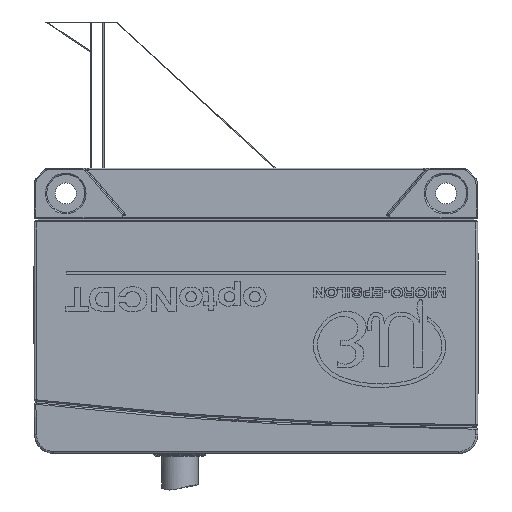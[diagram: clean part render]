
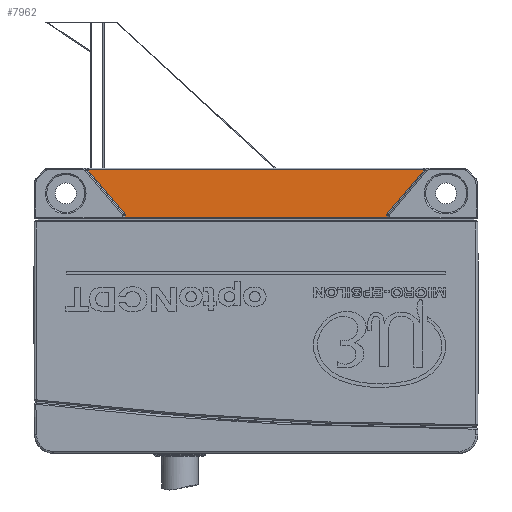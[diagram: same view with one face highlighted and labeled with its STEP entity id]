
A CAD part, front view. The second image highlights one B-rep face of the part: STEP entity #7962.
In plain terms, the highlighted planar face has unit normal (0, -1, 0.018).
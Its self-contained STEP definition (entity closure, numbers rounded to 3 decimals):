
#4825 = CARTESIAN_POINT ( 'NONE',  ( -20.8, -15.51, 0.197 ) ) ;
#6049 = CARTESIAN_POINT ( 'NONE',  ( 20.648, -15.502, 0.654 ) ) ;
#7113 = CARTESIAN_POINT ( 'NONE',  ( -20.645, -15.505, 0.492 ) ) ;
#7962 = ADVANCED_FACE ( 'NONE', ( #18162 ), #85769, .T. ) ;
#8761 = EDGE_CURVE ( 'NONE', #54747, #72071, #13134, .T. ) ;
#9653 = CARTESIAN_POINT ( 'NONE',  ( -20.64, -15.51, 0.197 ) ) ;
#13045 = CARTESIAN_POINT ( 'NONE',  ( -20.809, -15.497, 0.929 ) ) ;
#13134 = LINE ( 'NONE', #4825, #42051 ) ;
#16255 = ORIENTED_EDGE ( 'NONE', *, *, #8761, .T. ) ;
#16957 = ORIENTED_EDGE ( 'NONE', *, *, #21029, .T. ) ;
#18162 = FACE_OUTER_BOUND ( 'NONE', #35414, .T. ) ;
#19144 = LINE ( 'NONE', #45706, #51756 ) ;
#19604 = VERTEX_POINT ( 'NONE', #13045 ) ;
#20830 = CARTESIAN_POINT ( 'NONE',  ( 26.495, -15.379, 7.705 ) ) ;
#21029 = EDGE_CURVE ( 'NONE', #67152, #57516, #24930, .T. ) ;
#23081 = ORIENTED_EDGE ( 'NONE', *, *, #103354, .T. ) ;
#23494 = CARTESIAN_POINT ( 'NONE',  ( -26.495, -15.379, 7.705 ) ) ;
#24930 = LINE ( 'NONE', #98651, #51859 ) ;
#26429 = EDGE_CURVE ( 'NONE', #19604, #78280, #32321, .T. ) ;
#27394 = VECTOR ( 'NONE', #60824, 1000. ) ;
#32321 =( BOUNDED_CURVE ( )  B_SPLINE_CURVE ( 3, ( #73702, #41471, #109087, #7113 ),
 .UNSPECIFIED., .F., .F. ) 
 B_SPLINE_CURVE_WITH_KNOTS ( ( 4, 4 ),
 ( 0.873, 1.553 ),
 .UNSPECIFIED. ) 
 CURVE ( )  GEOMETRIC_REPRESENTATION_ITEM ( )  RATIONAL_B_SPLINE_CURVE ( ( 1., 0.962, 0.962, 1. ) ) 
 REPRESENTATION_ITEM ( '' )  );
#32639 =( BOUNDED_CURVE ( )  B_SPLINE_CURVE ( 3, ( #99695, #6049, #64262, #74208 ),
 .UNSPECIFIED., .F., .F. ) 
 B_SPLINE_CURVE_WITH_KNOTS ( ( 4, 4 ),
 ( 4.73, 5.411 ),
 .UNSPECIFIED. ) 
 CURVE ( )  GEOMETRIC_REPRESENTATION_ITEM ( )  RATIONAL_B_SPLINE_CURVE ( ( 1., 0.962, 0.962, 1. ) ) 
 REPRESENTATION_ITEM ( '' )  );
#33547 = CARTESIAN_POINT ( 'NONE',  ( -20.645, -15.505, 0.492 ) ) ;
#35414 = EDGE_LOOP ( 'NONE', ( #78395, #16255, #23081, #89468, #77420, #16957, #98316, #95738 ) ) ;
#36894 = DIRECTION ( 'NONE',  ( 0.017, 0.017, 1. ) ) ;
#39922 = VERTEX_POINT ( 'NONE', #85533 ) ;
#41471 = CARTESIAN_POINT ( 'NONE',  ( -20.705, -15.499, 0.805 ) ) ;
#42051 = VECTOR ( 'NONE', #105097, 1000. ) ;
#43978 = AXIS2_PLACEMENT_3D ( 'NONE', #94627, #93510, #68083 ) ;
#45706 = CARTESIAN_POINT ( 'NONE',  ( 2.128, -15.886, -21.333 ) ) ;
#46755 = DIRECTION ( 'NONE',  ( 0.643, 0.013, 0.766 ) ) ;
#51756 = VECTOR ( 'NONE', #46755, 1000. ) ;
#51859 = VECTOR ( 'NONE', #91954, 1000. ) ;
#53808 = VECTOR ( 'NONE', #109218, 1000. ) ;
#54093 = CARTESIAN_POINT ( 'NONE',  ( 20.587, -15.563, -2.822 ) ) ;
#54747 = VERTEX_POINT ( 'NONE', #9653 ) ;
#57516 = VERTEX_POINT ( 'NONE', #23494 ) ;
#57756 = VERTEX_POINT ( 'NONE', #100398 ) ;
#59364 = LINE ( 'NONE', #93165, #53808 ) ;
#60824 = DIRECTION ( 'NONE',  ( 0.017, -0.017, -1. ) ) ;
#64262 = CARTESIAN_POINT ( 'NONE',  ( 20.705, -15.499, 0.805 ) ) ;
#67152 = VERTEX_POINT ( 'NONE', #20830 ) ;
#68083 = DIRECTION ( 'NONE',  ( 0., 0.017, 1. ) ) ;
#68391 = EDGE_CURVE ( 'NONE', #78280, #54747, #102886, .T. ) ;
#69190 = CARTESIAN_POINT ( 'NONE',  ( 20.64, -15.51, 0.197 ) ) ;
#69686 = LINE ( 'NONE', #54093, #86312 ) ;
#72071 = VERTEX_POINT ( 'NONE', #69190 ) ;
#72435 = EDGE_CURVE ( 'NONE', #39922, #67152, #19144, .T. ) ;
#73702 = CARTESIAN_POINT ( 'NONE',  ( -20.809, -15.497, 0.929 ) ) ;
#74208 = CARTESIAN_POINT ( 'NONE',  ( 20.809, -15.497, 0.929 ) ) ;
#77420 = ORIENTED_EDGE ( 'NONE', *, *, #72435, .T. ) ;
#78280 = VERTEX_POINT ( 'NONE', #33547 ) ;
#78395 = ORIENTED_EDGE ( 'NONE', *, *, #68391, .T. ) ;
#81010 = EDGE_CURVE ( 'NONE', #57756, #39922, #32639, .T. ) ;
#85533 = CARTESIAN_POINT ( 'NONE',  ( 20.809, -15.497, 0.929 ) ) ;
#85769 = PLANE ( 'NONE',  #43978 ) ;
#86312 = VECTOR ( 'NONE', #36894, 1000. ) ;
#89449 = EDGE_CURVE ( 'NONE', #57516, #19604, #59364, .T. ) ;
#89468 = ORIENTED_EDGE ( 'NONE', *, *, #81010, .T. ) ;
#91954 = DIRECTION ( 'NONE',  ( -1., 0., 0. ) ) ;
#93165 = CARTESIAN_POINT ( 'NONE',  ( -19.313, -15.528, -0.853 ) ) ;
#93510 = DIRECTION ( 'NONE',  ( 0., -1., 0.017 ) ) ;
#94627 = CARTESIAN_POINT ( 'NONE',  ( -20.8, -15.55, -2.1 ) ) ;
#95738 = ORIENTED_EDGE ( 'NONE', *, *, #26429, .T. ) ;
#96221 = CARTESIAN_POINT ( 'NONE',  ( -20.6, -15.55, -2.097 ) ) ;
#98316 = ORIENTED_EDGE ( 'NONE', *, *, #89449, .T. ) ;
#98651 = CARTESIAN_POINT ( 'NONE',  ( -26.808, -15.379, 7.705 ) ) ;
#99695 = CARTESIAN_POINT ( 'NONE',  ( 20.645, -15.505, 0.492 ) ) ;
#100398 = CARTESIAN_POINT ( 'NONE',  ( 20.645, -15.505, 0.492 ) ) ;
#102886 = LINE ( 'NONE', #96221, #27394 ) ;
#103354 = EDGE_CURVE ( 'NONE', #72071, #57756, #69686, .T. ) ;
#105097 = DIRECTION ( 'NONE',  ( 1., 0., 0. ) ) ;
#109087 = CARTESIAN_POINT ( 'NONE',  ( -20.648, -15.502, 0.654 ) ) ;
#109218 = DIRECTION ( 'NONE',  ( 0.643, -0.013, -0.766 ) ) ;
